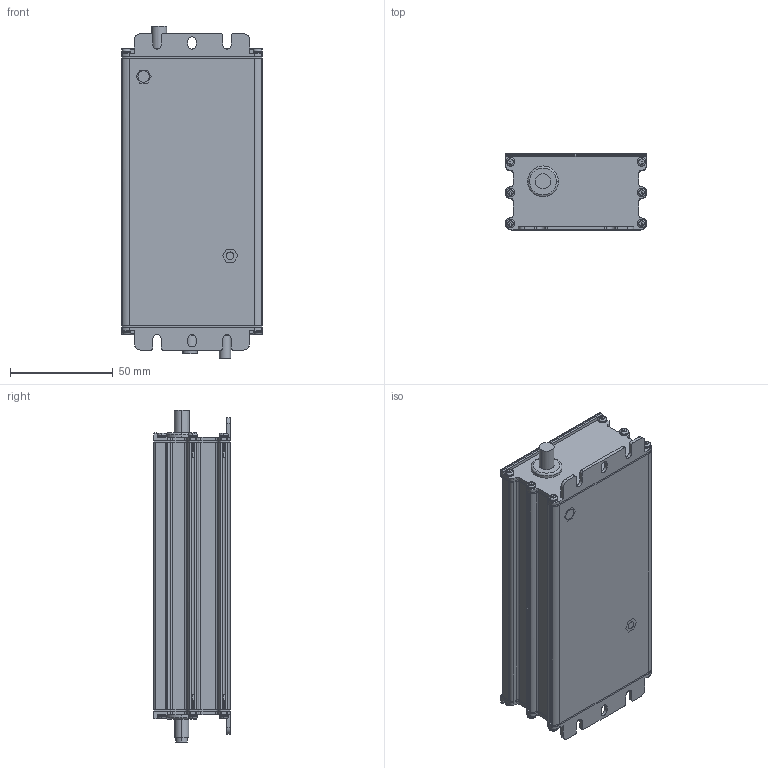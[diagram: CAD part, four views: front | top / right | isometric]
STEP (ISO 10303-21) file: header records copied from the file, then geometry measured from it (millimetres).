
FILE_DESCRIPTION((''),'2;1');
FILE_NAME('OT-100_ASM_ASM','2021-02-03T',('RI1130'),(''),'PRO/ENGINEER BY PARAMETRIC TECHNOLOGY CORPORATION, 2014320','PRO/ENGINEER BY PARAMETRIC TECHNOLOGY CORPORATION, 2014320','');
FILE_SCHEMA(('CONFIG_CONTROL_DESIGN'));
Length unit declared in the file: millimetre
Products named in the file (15): PRT0009; PRT0010; PRT0011; PRT0012; PRT0013; PRT0014; PRT0015; PRT0016; OT-100_1_ASM_ASM; PRT0017; PRT0018; OT-100_2_ASM_ASM; OT-100_0_ASM_ASM; ASM0014_ASM; OT-100_ASM_ASM
Assembly tree (27 placements, depth 5):
  OT-100_ASM_ASM
    ASM0014_ASM
      OT-100_0_ASM_ASM
        PRT0009
        PRT0010
        PRT0011
        PRT0012
        OT-100_1_ASM_ASM
          PRT0013
          PRT0014
          PRT0015
          PRT0016  x2
        OT-100_2_ASM_ASM
          PRT0017  x12
          PRT0018  x2
Bounding box: 68 x 37 x 161.2 mm (x, y, z)
Volume: 67243.7 mm3; surface area: 86604 mm2
Topology: 23 solids, 23 shells, 1104 faces, 3077 edges, 2060 vertices
Faces by surface type: cylinder 521, plane 387, bspline 96, torus 60, extrusion 40
Entity records: 19843 total; most frequent: CARTESIAN_POINT 5596, DIRECTION 3022, ORIENTED_EDGE 2906, EDGE_CURVE 1453, AXIS2_PLACEMENT_3D 1114, VERTEX_POINT 981, VECTOR 794, LINE 762
